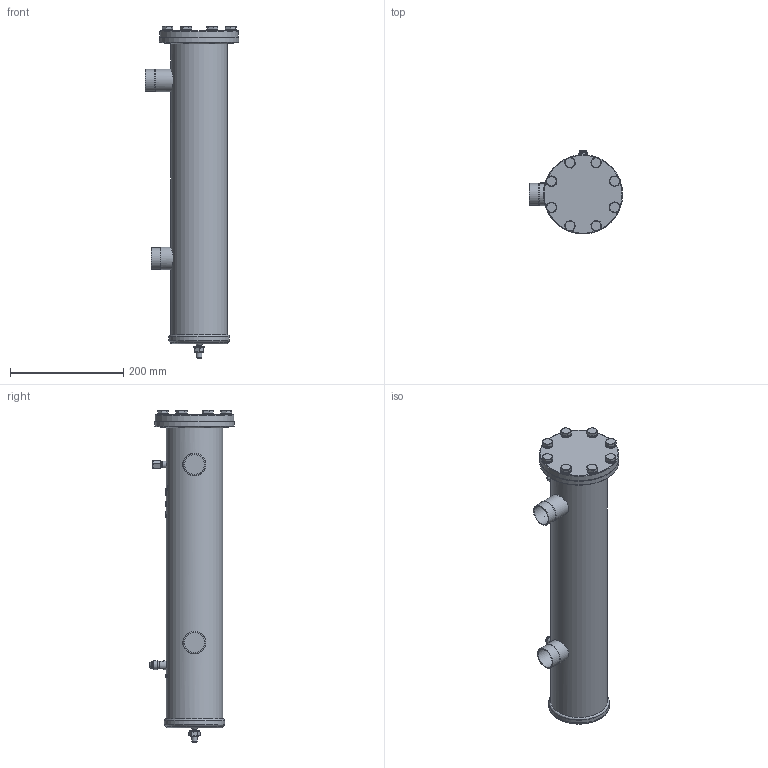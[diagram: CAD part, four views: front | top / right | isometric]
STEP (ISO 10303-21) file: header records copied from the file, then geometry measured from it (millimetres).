
FILE_DESCRIPTION(/* description */ (''),/* implementation_level */ '2;1');
FILE_NAME(/* name */ 'P:\OS\BOS2-35F\BOS2-35F.stp',/* time_stamp */ '2017-10-04T07:48:24+02:00',/* author */ ('neufeld'),/* organization */ (''),/* preprocessor_version */ 'ST-DEVELOPER v16.1',/* originating_system */ 'Autodesk Inventor 2016',/* authorisation */ '');
FILE_SCHEMA (('AUTOMOTIVE_DESIGN { 1 0 10303 214 3 1 1 }'));
Length unit declared in the file: millimetre
Products named in the file (2): BOS2-35F; BOS2-35F_1
Assembly tree (1 placements, depth 2):
  BOS2-35F_1
    BOS2-35F
Bounding box: 165 x 149 x 587.3 mm (x, y, z)
Volume: 4602575.6 mm3; surface area: 235916 mm2
Topology: 1 solids, 2 shells, 1477 faces, 3931 edges, 2585 vertices
Faces by surface type: plane 773, bspline 452, cylinder 160, cone 85, torus 7
Full cylindrical faces by diameter (mm): 7 x1, 7.2 x1, 8.9 x1, 10 x10, 11.1 x1, 12 x1, 12.9 x1, 13.5 x1, 15.4 x8, 15.7 x1, 16 x1, 35.2 x2, 39 x2, 40 x2, 100 x1, 107.5 x1, 138 x1, 140 x2
Entity records: 54530 total; most frequent: CARTESIAN_POINT 20686, ORIENTED_EDGE 7678, DIRECTION 5904, EDGE_CURVE 3837, VERTEX_POINT 2563, AXIS2_PLACEMENT_3D 2095, LINE 1714, VECTOR 1714
